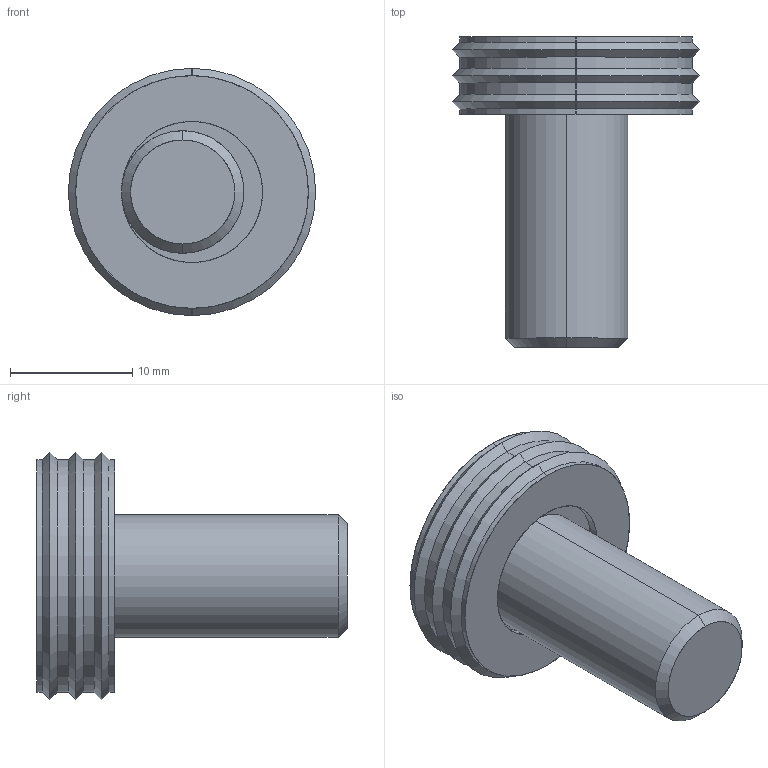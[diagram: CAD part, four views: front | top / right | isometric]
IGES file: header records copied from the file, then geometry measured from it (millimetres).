
Start section: SolidWorks IGES file using analytic representation for surfaces
Global section: file name: E:\Pending\12120_v2\12120_v2_20171107_IGES\12120.W0020.igs; native system: SolidWorks 2017; preprocessor: SolidWorks 2017; author: liam_; date: 171214.131805; units: millimetre
Bounding box: 20.2 x 25.35 x 20.2 mm (x, y, z)
Surface area: 2261.3 mm2 (no closed solid volume)
Topology: 0 solids, 0 shells, 45 faces, 484 edges, 484 vertices
Faces by surface type: revolution 32, bspline 13
